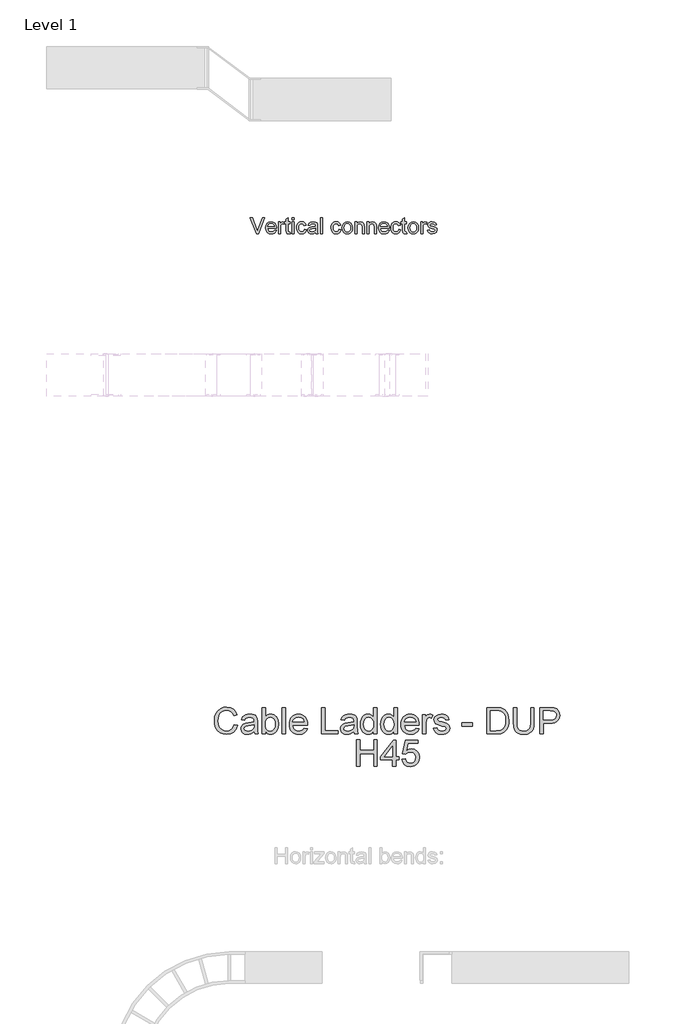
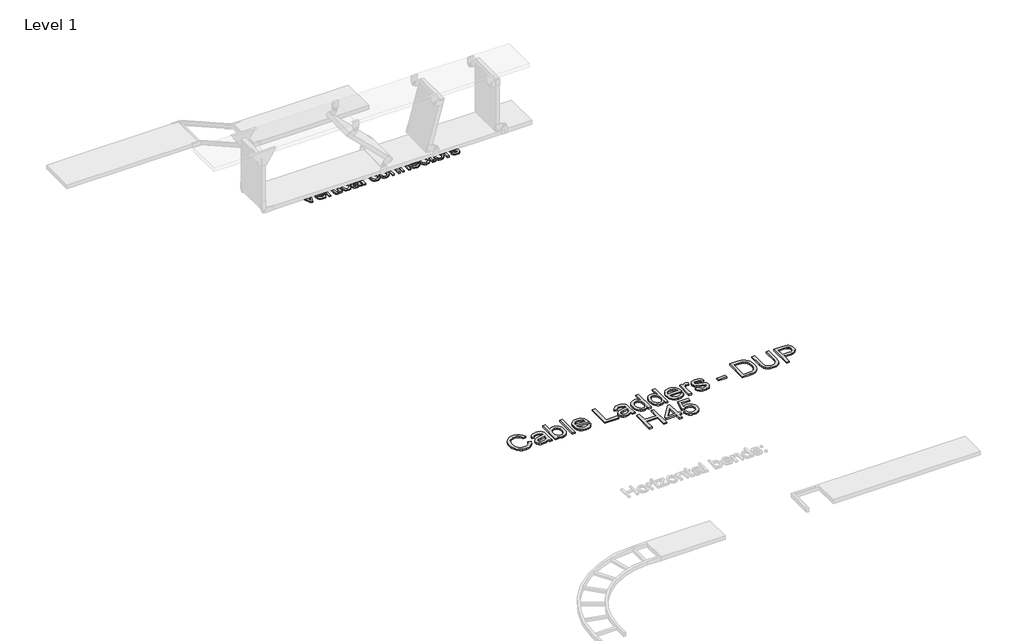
# One storey, part 61 of 106: 2 proxies.
"""IFC4 building model written with IfcOpenShell, lengths in millimetres."""

from ifc_helpers import new_model, si_unit, origin, origin_with_axes, place, context, project, spatial, polyline, outline, extrude, element, save

model = new_model("IFC4")

# Units and contexts
model_context = context("Model", 3, world=origin())
ifc_project = project(units=[si_unit("LENGTHUNIT", "METRE", prefix="MILLI")], contexts=[model_context])

# Site, building, storey
site = spatial("IfcSite", under=ifc_project)
building = spatial("IfcBuilding", under=site)
storey = spatial("IfcBuildingStorey", under=building, Name="Level 1", Elevation=0.0)

# Proxies
placement = place(None, origin())
element("IfcBuildingElementProxy", 1, Name="150mm Arial 2", ObjectType="150mm Arial 2", at=placement, inside=storey, context=model_context, shape_type="SweptSolid", body=[
    extrude(outline(polyline([(42088.5897513, 44647.8476348), (42028.624986, 44798.5321), (42048.7849194, 44798.5321), (42088.920845, 44689.9701232), (42097.0510371, 44665.5059705), (42105.0708646, 44689.9701232), (42145.3171549, 44798.5321), (42165.4770882, 44798.5321), (42108.0507088, 44647.8476348), (42088.5897513, 44647.8476348)])), origin_with_axes(), (0.0, 0.0, 1.0), 15.0),
    extrude(outline(polyline([(42258.1097746, 44680.8098615), (42276.5774508, 44678.4554168), (42269.9233852, 44664.5402803), (42259.3053911, 44654.1384169), (42244.9625918, 44647.6544967), (42227.1341106, 44645.49319), (42205.0335998, 44649.2225937), (42188.0282546, 44660.4108049), (42177.1849327, 44678.3312566), (42173.5704921, 44702.2573819), (42177.2217209, 44726.988249), (42188.1754073, 44745.4835163), (42204.9508263, 44757.0166168), (42226.0672529, 44760.8609837), (42246.5260903, 44757.0258139), (42262.8738465, 44745.5203045), (42273.5930081, 44727.0618254), (42277.166062, 44702.3677465), (42277.0556974, 44697.2909749), (42192.4060503, 44697.2909749), (42195.6664045, 44683.1918975), (42203.2401751, 44672.8268223), (42214.1708688, 44666.4532667), (42227.5019926, 44664.3287482), (42245.9696688, 44668.2650855), (42258.1097746, 44680.8098615)]), holes=[polyline([(42192.4060503, 44716.1265331), (42258.3305038, 44716.1265331), (42255.782921, 44726.0777411), (42250.7889229, 44733.1962577), (42239.8076454, 44739.8181336), (42225.9936765, 44742.0254255), (42213.2971491, 44740.2641905), (42202.7987167, 44734.9804853), (42195.5008576, 44726.7445272), (42192.4060503, 44716.1265331)])]), origin_with_axes(), (0.0, 0.0, 1.0), 15.0),
    extrude(outline(polyline([(42406.6605243, 44663.556196), (42409.0149691, 44647.2958118), (42394.9250886, 44645.49319), (42379.142951, 44648.620187), (42371.2702763, 44656.8239555), (42368.989408, 44678.1978994), (42368.989408, 44739.6709808), (42354.8627394, 44739.6709808), (42354.8627394, 44755.0484482), (42354.8627394, 44758.5065389), (42368.989408, 44758.5065389), (42368.989408, 44785.3987128), (42387.8249661, 44796.4719608), (42387.8249661, 44758.5065389), (42406.6605243, 44758.5065389), (42406.6605243, 44739.6709808), (42387.8249661, 44739.6709808), (42387.8249661, 44678.7497224), (42388.8182475, 44669.0376377), (42392.037215, 44665.597941), (42398.4567558, 44664.3287482), (42406.6605243, 44663.556196)])), origin_with_axes(), (0.0, 0.0, 1.0), 15.0),
    extrude(outline(polyline([(42296.0016201, 44647.8476348), (42296.0016201, 44758.5065389), (42312.4827335, 44758.5065389), (42312.4827335, 44742.1357901), (42324.181381, 44757.2189519), (42335.9536048, 44760.8609837), (42354.8627394, 44755.0484482), (42348.5719572, 44738.1626646), (42335.3282054, 44742.0254255), (42324.6780217, 44738.3098174), (42317.8905988, 44728.0091215), (42314.8371783, 44706.0097782), (42314.8371783, 44647.8476348), (42296.0016201, 44647.8476348)])), origin_with_axes(), (0.0, 0.0, 1.0), 15.0),
    extrude(outline(polyline([(42425.4960824, 44779.6965419), (42425.4960824, 44798.5321), (42444.3316406, 44798.5321), (42444.3316406, 44779.6965419), (42425.4960824, 44779.6965419)])), origin_with_axes(), (0.0, 0.0, 1.0), 15.0),
    extrude(outline(polyline([(42425.4960824, 44647.8476348), (42425.4960824, 44758.5065389), (42444.3316406, 44758.5065389), (42444.3316406, 44647.8476348), (42425.4960824, 44647.8476348)])), origin_with_axes(), (0.0, 0.0, 1.0), 15.0),
    extrude(outline(polyline([(42543.2183209, 44687.8731959), (42562.053879, 44685.5187511), (42556.8023636, 44668.7663247), (42546.933929, 44656.1065856), (42533.3774775, 44648.1465389), (42517.061911, 44645.49319), (42497.0261379, 44649.1950026), (42481.3589634, 44660.3004403), (42471.2468071, 44678.3220596), (42467.8760883, 44702.7724167), (42469.3154266, 44719.5340401), (42473.6334415, 44734.0607803), (42480.8991109, 44745.7916175), (42491.1814127, 44754.1655314), (42503.4824669, 44759.1871206), (42516.8043936, 44760.8609837), (42532.7198885, 44758.5617212), (42545.444007, 44751.6639338), (42554.572079, 44740.5355035), (42559.6994343, 44725.5443122), (42540.8638761, 44723.1898674), (42532.1266787, 44737.2981419), (42516.9515464, 44742.0254255), (42504.7792509, 44739.6985719), (42495.11775, 44732.7180111), (42488.8131723, 44720.7066639), (42486.7116464, 44703.2874515), (42488.7671871, 44685.6337142), (42494.933809, 44673.5809803), (42504.420566, 44666.6418062), (42516.4365116, 44664.3287482), (42526.189983, 44665.772685), (42534.1868179, 44670.1044955), (42540.003952, 44677.4345442), (42543.2183209, 44687.8731959)])), origin_with_axes(), (0.0, 0.0, 1.0), 15.0),
    extrude(outline(polyline([(42649.1683355, 44661.9743034), (42630.9029944, 44649.2087982), (42610.724667, 44645.49319), (42594.9839161, 44647.7280731), (42583.3726407, 44654.4327225), (42576.2127373, 44664.6138567), (42573.8261029, 44677.2781944), (42577.4313464, 44692.1774152), (42586.9043078, 44702.9931459), (42600.0928773, 44709.1735634), (42616.3900497, 44712.0062547), (42649.0579709, 44718.4809779), (42649.1683355, 44722.6748326), (42647.8715515, 44731.0809362), (42643.9811994, 44736.580772), (42635.2807902, 44740.6642622), (42623.1590784, 44742.0254255), (42604.1027911, 44738.4017879), (42595.0161058, 44725.5443122), (42576.1805477, 44727.8987569), (42584.3291339, 44746.2928567), (42600.7366708, 44757.0717991), (42625.5870996, 44760.8609837), (42648.4141774, 44757.5132575), (42661.3084413, 44749.107154), (42667.0841887, 44736.3232546), (42668.0038937, 44719.8421412), (42668.0038937, 44696.4080581), (42668.9603868, 44663.6849547), (42672.7127832, 44647.8476348), (42653.877225, 44647.8476348), (42649.1683355, 44661.9743034)]), holes=[polyline([(42649.1683355, 44699.6454197), (42618.7812827, 44693.8696724), (42602.5760808, 44690.8162518), (42595.236835, 44685.8498449), (42592.661661, 44678.6025696), (42598.2718615, 44668.4122383), (42614.7345808, 44664.3287482), (42633.7908681, 44668.8353026), (42646.0781267, 44679.7430038), (42649.0579709, 44694.3111308), (42649.1683355, 44699.6454197)])]), origin_with_axes(), (0.0, 0.0, 1.0), 15.0),
    extrude(outline(polyline([(42693.9027861, 44647.8476348), (42693.9027861, 44798.5321), (42712.7383443, 44798.5321), (42712.7383443, 44647.8476348), (42693.9027861, 44647.8476348)])), origin_with_axes(), (0.0, 0.0, 1.0), 15.0),
    extrude(outline(polyline([(42870.4861438, 44687.8731959), (42889.321702, 44685.5187511), (42884.0701865, 44668.7663247), (42874.201752, 44656.1065856), (42860.6453004, 44648.1465389), (42844.3297339, 44645.49319), (42824.2939608, 44649.1950026), (42808.6267863, 44660.3004403), (42798.51463, 44678.3220596), (42795.1439112, 44702.7724167), (42796.5832495, 44719.5340401), (42800.9012644, 44734.0607803), (42808.1669338, 44745.7916175), (42818.4492356, 44754.1655314), (42830.7502898, 44759.1871206), (42844.0722165, 44760.8609837), (42859.9877114, 44758.5617212), (42872.7118299, 44751.6639338), (42881.8399019, 44740.5355035), (42886.9672572, 44725.5443122), (42868.131699, 44723.1898674), (42859.3945016, 44737.2981419), (42844.2193693, 44742.0254255), (42832.0470738, 44739.6985719), (42822.3855729, 44732.7180111), (42816.0809952, 44720.7066639), (42813.9794693, 44703.2874515), (42816.03501, 44685.6337142), (42822.2016319, 44673.5809803), (42831.6883889, 44666.6418062), (42843.7043346, 44664.3287482), (42853.457806, 44665.772685), (42861.4546408, 44670.1044955), (42867.2717749, 44677.4345442), (42870.4861438, 44687.8731959)])), origin_with_axes(), (0.0, 0.0, 1.0), 15.0),
    extrude(outline(polyline([(42901.0939258, 44703.1770869), (42905.1682189, 44729.8577286), (42917.3910982, 44748.6105133), (42932.4926541, 44757.7983661), (42950.5740542, 44760.8609837), (42970.361507, 44757.13158), (42986.1666372, 44745.9433688), (42996.5271139, 44728.179267), (42999.9806061, 44704.7221912), (42998.4538958, 44685.693495), (42993.873765, 44671.2081415), (42986.3735708, 44660.3602211), (42976.0866705, 44652.2438246), (42963.8683898, 44647.1808487), (42950.5740542, 44645.49319), (42930.547478, 44649.2087982), (42914.7607419, 44660.3556226), (42904.5106298, 44678.492205), (42901.0939258, 44703.1770869)]), holes=[polyline([(42919.929484, 44703.2138751), (42922.1091848, 44686.1671431), (42928.6482872, 44674.0224387), (42938.4891306, 44666.7521708), (42950.5740542, 44664.3287482), (42962.6037954, 44666.7659664), (42972.4262447, 44674.077621), (42978.9653471, 44686.3832738), (42981.145048, 44703.8024862), (42978.9515516, 44720.3525775), (42972.3710624, 44732.331735), (42962.5348175, 44739.6020029), (42950.5740542, 44742.0254255), (42938.4891306, 44739.6112), (42928.6482872, 44732.3685232), (42922.1091848, 44720.25141), (42919.929484, 44703.2138751)])]), origin_with_axes(), (0.0, 0.0, 1.0), 15.0),
    extrude(outline(polyline([(43021.170609, 44647.8476348), (43021.170609, 44758.5065389), (43040.0061672, 44758.5065389), (43040.0061672, 44743.0554951), (43054.4087473, 44756.4096116), (43074.0720399, 44760.8609837), (43091.8591344, 44757.2741342), (43103.9992402, 44747.8563552), (43109.6462289, 44734.0055981), (43110.6395103, 44715.7954393), (43110.6395103, 44647.8476348), (43091.8039521, 44647.8476348), (43091.8039521, 44713.2570535), (43089.6334483, 44729.9221079), (43081.9631087, 44738.7328817), (43069.0320566, 44742.0254255), (43058.0001953, 44740.1768185), (43048.5962118, 44734.6309974), (43042.1536783, 44723.9164343), (43040.0061672, 44706.5616012), (43040.0061672, 44647.8476348), (43021.170609, 44647.8476348)])), origin_with_axes(), (0.0, 0.0, 1.0), 15.0),
    extrude(outline(polyline([(43136.5384027, 44647.8476348), (43136.5384027, 44758.5065389), (43155.3739609, 44758.5065389), (43155.3739609, 44743.0554951), (43169.776541, 44756.4096116), (43189.4398336, 44760.8609837), (43207.2269281, 44757.2741342), (43219.3670339, 44747.8563552), (43225.0140226, 44734.0055981), (43226.0073039, 44715.7954393), (43226.0073039, 44647.8476348), (43207.1717458, 44647.8476348), (43207.1717458, 44713.2570535), (43205.001242, 44729.9221079), (43197.3309024, 44738.7328817), (43184.3998503, 44742.0254255), (43173.367989, 44740.1768185), (43163.9640055, 44734.6309974), (43157.521472, 44723.9164343), (43155.3739609, 44706.5616012), (43155.3739609, 44647.8476348), (43136.5384027, 44647.8476348)])), origin_with_axes(), (0.0, 0.0, 1.0), 15.0),
    extrude(outline(polyline([(43329.3821446, 44680.8098615), (43347.8498207, 44678.4554168), (43341.1957552, 44664.5402803), (43330.5777611, 44654.1384169), (43316.2349618, 44647.6544967), (43298.4064806, 44645.49319), (43276.3059697, 44649.2225937), (43259.3006245, 44660.4108049), (43248.4573027, 44678.3312566), (43244.8428621, 44702.2573819), (43248.4940909, 44726.988249), (43259.4477773, 44745.4835163), (43276.2231963, 44757.0166168), (43297.3396228, 44760.8609837), (43317.7984603, 44757.0258139), (43334.1462164, 44745.5203045), (43344.8653781, 44727.0618254), (43348.4384319, 44702.3677465), (43348.3280673, 44697.2909749), (43263.6784202, 44697.2909749), (43266.9387744, 44683.1918975), (43274.512545, 44672.8268223), (43285.4432388, 44666.4532667), (43298.7743626, 44664.3287482), (43317.2420387, 44668.2650855), (43329.3821446, 44680.8098615)]), holes=[polyline([(43263.6784202, 44716.1265331), (43329.6028738, 44716.1265331), (43327.055291, 44726.0777411), (43322.0612929, 44733.1962577), (43311.0800153, 44739.8181336), (43297.2660464, 44742.0254255), (43284.569519, 44740.2641905), (43274.0710866, 44734.9804853), (43266.7732275, 44726.7445272), (43263.6784202, 44716.1265331)])]), origin_with_axes(), (0.0, 0.0, 1.0), 15.0),
    extrude(outline(polyline([(43437.9073332, 44687.8731959), (43456.7428913, 44685.5187511), (43451.4913758, 44668.7663247), (43441.6229413, 44656.1065856), (43428.0664898, 44648.1465389), (43411.7509233, 44645.49319), (43391.7151501, 44649.1950026), (43376.0479757, 44660.3004403), (43365.9358193, 44678.3220596), (43362.5651006, 44702.7724167), (43364.0044389, 44719.5340401), (43368.3224538, 44734.0607803), (43375.5881232, 44745.7916175), (43385.8704249, 44754.1655314), (43398.1714792, 44759.1871206), (43411.4934059, 44760.8609837), (43427.4089007, 44758.5617212), (43440.1330192, 44751.6639338), (43449.2610912, 44740.5355035), (43454.3884465, 44725.5443122), (43435.5528884, 44723.1898674), (43426.815691, 44737.2981419), (43411.6405587, 44742.0254255), (43399.4682632, 44739.6985719), (43389.8067623, 44732.7180111), (43383.5021846, 44720.7066639), (43381.4006587, 44703.2874515), (43383.4561994, 44685.6337142), (43389.6228213, 44673.5809803), (43399.1095782, 44666.6418062), (43411.1255239, 44664.3287482), (43420.8789953, 44665.772685), (43428.8758302, 44670.1044955), (43434.6929642, 44677.4345442), (43437.9073332, 44687.8731959)])), origin_with_axes(), (0.0, 0.0, 1.0), 15.0),
    extrude(outline(polyline([(43513.2495658, 44663.556196), (43515.6040105, 44647.2958118), (43501.5141301, 44645.49319), (43485.7319925, 44648.620187), (43477.8593178, 44656.8239555), (43475.5784495, 44678.1978994), (43475.5784495, 44739.6709808), (43461.4517809, 44739.6709808), (43461.4517809, 44758.5065389), (43475.5784495, 44758.5065389), (43475.5784495, 44785.3987128), (43494.4140076, 44796.4719608), (43494.4140076, 44758.5065389), (43513.2495658, 44758.5065389), (43513.2495658, 44739.6709808), (43494.4140076, 44739.6709808), (43494.4140076, 44678.7497224), (43495.407289, 44669.0376377), (43498.6262565, 44665.597941), (43505.0457973, 44664.3287482), (43513.2495658, 44663.556196)])), origin_with_axes(), (0.0, 0.0, 1.0), 15.0),
    extrude(outline(polyline([(43527.3762344, 44703.1770869), (43531.4505275, 44729.8577286), (43543.6734068, 44748.6105133), (43558.7749627, 44757.7983661), (43576.8563627, 44760.8609837), (43596.6438156, 44757.13158), (43612.4489458, 44745.9433688), (43622.8094225, 44728.179267), (43626.2629147, 44704.7221912), (43624.7362044, 44685.693495), (43620.1560736, 44671.2081415), (43612.6558794, 44660.3602211), (43602.3689791, 44652.2438246), (43590.1506983, 44647.1808487), (43576.8563627, 44645.49319), (43556.8297866, 44649.2087982), (43541.0430505, 44660.3556226), (43530.7929384, 44678.492205), (43527.3762344, 44703.1770869)]), holes=[polyline([(43546.2117925, 44703.2138751), (43548.3914934, 44686.1671431), (43554.9305958, 44674.0224387), (43564.7714392, 44666.7521708), (43576.8563627, 44664.3287482), (43588.886104, 44666.7659664), (43598.7085533, 44674.077621), (43605.2476557, 44686.3832738), (43607.4273565, 44703.8024862), (43605.2338601, 44720.3525775), (43598.653371, 44732.331735), (43588.8171261, 44739.6020029), (43576.8563627, 44742.0254255), (43564.7714392, 44739.6112), (43554.9305958, 44732.3685232), (43548.3914934, 44720.25141), (43546.2117925, 44703.2138751)])]), origin_with_axes(), (0.0, 0.0, 1.0), 15.0),
    extrude(outline(polyline([(43647.4529176, 44647.8476348), (43647.4529176, 44758.5065389), (43663.934031, 44758.5065389), (43663.934031, 44742.1357901), (43675.6326784, 44757.2189519), (43687.4049023, 44760.8609837), (43706.3140368, 44755.0484482), (43700.0232547, 44738.1626646), (43686.7795029, 44742.0254255), (43676.1293191, 44738.3098174), (43669.3418963, 44728.0091215), (43666.2884758, 44706.0097782), (43666.2884758, 44647.8476348), (43647.4529176, 44647.8476348)])), origin_with_axes(), (0.0, 0.0, 1.0), 15.0),
    extrude(outline(polyline([(43711.0229264, 44680.8098615), (43729.8584845, 44683.1643063), (43732.8291316, 44675.1076906), (43738.5772878, 44669.1847905), (43758.5532802, 44664.3287482), (43777.7567203, 44668.7801203), (43784.0107142, 44679.227969), (43782.4380187, 44684.028829), (43777.7199321, 44687.6892549), (43758.332551, 44693.060332), (43729.9688491, 44702.275776), (43717.58962, 44713.0363243), (43713.3773712, 44728.2298507), (43716.7618855, 44742.2645488), (43725.9957236, 44752.988309), (43737.9702825, 44758.5617212), (43754.1754844, 44760.8609837), (43777.0945327, 44757.1637696), (43791.6626597, 44747.1573794), (43798.1373828, 44730.2532017), (43779.3018247, 44727.8987569), (43772.2200963, 44738.2914233), (43755.6470124, 44742.0254255), (43737.6207946, 44738.4569702), (43732.2129293, 44730.1428371), (43734.4570095, 44724.6613954), (43741.4835556, 44720.5043288), (43757.7071516, 44716.4944151), (43785.3534835, 44707.628459), (43798.1925651, 44697.5852805), (43802.8462724, 44681.2145317), (43797.3832248, 44663.188314), (43781.6194813, 44650.1101091), (43758.2957628, 44645.49319), (43739.3038548, 44647.7188761), (43725.4439006, 44654.3959343), (43716.1916684, 44665.4507882), (43711.0229264, 44680.8098615)])), origin_with_axes(), (0.0, 0.0, 1.0), 15.0),
])
element("IfcBuildingElementProxy", 2, Name="250mm Arial 3", ObjectType="250mm Arial 3", at=placement, inside=storey, context=model_context, shape_type="SweptSolid", body=[
    extrude(outline(polyline([(41877.4786825, 39992.4106539), (41908.8712794, 39984.31725), (41894.3859258, 39947.7359841), (41871.6538842, 39921.01089), (41841.7941289, 39904.6631338), (41805.9256344, 39899.2138818), (41769.5129811, 39903.3372258), (41740.5959234, 39915.7072579), (41718.4310332, 39935.8947824), (41702.2748823, 39963.4706036), (41692.4110463, 39995.8902044), (41689.1231009, 40030.6090677), (41692.8402419, 40067.2286547), (41703.9916649, 40098.8511778), (41721.9948901, 40124.472626), (41746.2674375, 40143.0889877), (41775.0542037, 40154.4243517), (41806.6000847, 40158.2028064), (41841.0200439, 40153.3130415), (41869.4772491, 40138.643747), (41891.0826521, 40115.0992993), (41904.9472048, 40083.584075), (41873.5546079, 40076.1038078), (41862.6714322, 40098.9967978), (41847.8028682, 40114.7007605), (41828.764975, 40123.7828472), (41805.3738114, 40126.8102095), (41778.4111269, 40123.4532863), (41756.2615651, 40113.3825166), (41739.4539564, 40097.6555613), (41728.5171313, 40077.3300811), (41722.5160562, 40054.3527848), (41720.5156979, 40030.6703814), (41722.8839382, 40001.6690174), (41729.9886592, 39976.5917281), (41742.0981083, 39956.3965394), (41759.4805325, 39942.0414774), (41780.3195147, 39933.4652284), (41802.7986375, 39930.6064787), (41829.0025654, 39934.4998965), (41850.8378947, 39946.1801498), (41867.3236066, 39965.5246114), (41877.4786825, 39992.4106539)])), origin_with_axes(), (0.0, 0.0, 1.0), 15.0),
    extrude(outline(polyline([(42065.834264, 39926.6824041), (42050.8354085, 39913.8218627), (42035.3920289, 39905.406562), (42019.1515717, 39900.7620518), (42001.7614832, 39899.2138818), (41975.5268984, 39902.938687), (41956.1747726, 39914.1131026), (41944.2416004, 39931.0816596), (41940.2638763, 39952.1888891), (41941.7660611, 39965.2027147), (41946.2726156, 39977.0209238), (41962.0608845, 39995.0471415), (41984.0418337, 40005.3478374), (42011.2037877, 40010.0689897), (42065.650323, 40020.8601949), (42065.834264, 40027.8499528), (42063.6729573, 40041.8601254), (42057.1890371, 40051.0265185), (42042.6883551, 40057.8323354), (42022.4855022, 40060.100941), (42003.7848342, 40058.591092), (41990.7250233, 40054.0615449), (41981.8192134, 40045.6845653), (41975.5805479, 40032.6324187), (41944.1879509, 40036.5564933), (41949.637203, 40053.7243198), (41957.7689279, 40067.2133262), (41969.3418824, 40077.5293505), (41985.1148229, 40085.1782303), (42004.405635, 40089.914711), (42026.5322042, 40091.4935379), (42047.7543968, 40090.098652), (42064.5773339, 40085.9139943), (42077.2615985, 40079.6216794), (42086.0677737, 40071.9038217), (42095.6940193, 40050.5973228), (42097.2268609, 40023.1288005), (42097.2268609, 39984.0719953), (42098.8210162, 39929.5334895), (42105.0750102, 39903.1379564), (42073.6824132, 39903.1379564), (42065.834264, 39926.6824041)]), holes=[polyline([(42065.834264, 39989.4675979), (42015.189176, 39979.8413524), (41988.1805062, 39974.7523181), (41975.9484299, 39966.4749732), (41971.6564732, 39954.3961811), (41973.9940568, 39945.0611754), (41981.0068073, 39937.4122956), (41992.5414407, 39932.3079329), (42008.4446728, 39930.6064787), (42025.3059309, 39932.4842097), (42040.2051517, 39938.1174028), (42052.2839439, 39946.4177403), (42060.6839161, 39956.2969047), (42064.4087213, 39966.4749732), (42065.650323, 39980.5771164), (42065.834264, 39989.4675979)])]), origin_with_axes(), (0.0, 0.0, 1.0), 15.0),
    extrude(outline(polyline([(42171.7842786, 39903.1379564), (42140.3916817, 39903.1379564), (42140.3916817, 40154.2787318), (42171.7842786, 40154.2787318), (42171.7842786, 40061.1432733), (42182.1079671, 40074.4215141), (42193.7652278, 40083.9059718), (42206.7560608, 40089.5966464), (42221.080466, 40091.4935379), (42237.2519453, 40089.7844195), (42252.5343766, 40084.6570642), (42266.0540399, 40076.4333687), (42276.9372156, 40065.4352299), (42291.9284069, 40035.5448178), (42297.3546663, 39998.1128248), (42291.7368017, 39956.2049342), (42284.7144709, 39939.2746982), (42274.8832078, 39925.0269351), (42263.0822431, 39913.7337243), (42250.1508078, 39905.6671451), (42236.0889017, 39900.8271976), (42220.896525, 39899.2138818), (42206.100771, 39901.2947143), (42192.9834786, 39907.5372119), (42181.5446478, 39917.9413746), (42171.7842786, 39932.5072023), (42171.7842786, 39903.1379564)]), holes=[polyline([(42171.7842786, 39996.6412968), (42173.9302569, 39970.4603615), (42180.3681918, 39952.7407121), (42196.8155827, 39936.140037), (42218.1987237, 39930.6064787), (42236.3169119, 39934.6838375), (42251.7986126, 39946.9159138), (42262.4212052, 39967.2260656), (42265.9620694, 39995.5376509), (42262.5668251, 40024.2631033), (42252.3810924, 40044.3433289), (42237.3822369, 40056.161538), (42219.5476243, 40060.100941), (42201.4294361, 40056.0235822), (42185.9477354, 40043.7915059), (42175.3251428, 40023.8492361), (42171.7842786, 39996.6412968)])]), origin_with_axes(), (0.0, 0.0, 1.0), 15.0),
    extrude(outline(polyline([(42332.6713378, 39903.1379564), (42332.6713378, 40154.2787318), (42364.0639348, 40154.2787318), (42364.0639348, 39903.1379564), (42332.6713378, 39903.1379564)])), origin_with_axes(), (0.0, 0.0, 1.0), 15.0),
    extrude(outline(polyline([(42540.2794105, 39958.075001), (42571.0588707, 39954.1509264), (42559.9687614, 39930.9590323), (42542.2721046, 39913.6225933), (42518.3674391, 39902.8160597), (42488.6533038, 39899.2138818), (42469.1747186, 39900.7678), (42451.819119, 39905.4295547), (42436.5865052, 39913.1991458), (42423.476877, 39924.0765733), (42412.9347586, 39937.759101), (42405.404674, 39953.9439928), (42400.8866232, 39972.6312485), (42399.3806063, 39993.8208682), (42400.9019516, 40015.7290074), (42405.4659876, 40035.0389801), (42413.0727143, 40051.7507861), (42423.7221317, 40065.8644256), (42436.7972709, 40077.0771622), (42451.6811633, 40085.0862598), (42468.3738088, 40089.8917184), (42486.8752075, 40091.4935379), (42504.780714, 40089.8955505), (42520.9732699, 40085.1015883), (42535.4528753, 40077.1116512), (42548.2195302, 40065.9257393), (42558.6409373, 40051.8427566), (42566.0847996, 40035.1616074), (42570.5511169, 40015.8822916), (42572.0398894, 39994.0048092), (42571.8559484, 39985.5435233), (42430.7732032, 39985.5435233), (42436.2071269, 39962.0450609), (42448.8300778, 39944.7699355), (42467.0479008, 39934.1473429), (42489.2664405, 39930.6064787), (42505.9744144, 39932.2466193), (42520.0459007, 39937.1670409), (42531.4808994, 39945.6743121), (42540.2794105, 39958.075001)]), holes=[polyline([(42430.7732032, 40016.9361202), (42540.6472925, 40016.9361202), (42536.4013211, 40033.5214669), (42528.077991, 40045.3856612), (42509.7758617, 40056.4221211), (42486.7525802, 40060.100941), (42465.5917012, 40057.1655493), (42448.0943138, 40048.359374), (42435.9312154, 40034.632777), (42430.7732032, 40016.9361202)])]), origin_with_axes(), (0.0, 0.0, 1.0), 15.0),
    extrude(outline(polyline([(42705.4584263, 39903.1379564), (42705.4584263, 40154.2787318), (42736.8510232, 40154.2787318), (42736.8510232, 39934.5305533), (42862.4214109, 39934.5305533), (42862.4214109, 39903.1379564), (42705.4584263, 39903.1379564)])), origin_with_axes(), (0.0, 0.0, 1.0), 15.0),
    extrude(outline(polyline([(43011.5362463, 39926.6824041), (42996.5373908, 39913.8218627), (42981.0940112, 39905.406562), (42964.8535539, 39900.7620518), (42947.4634655, 39899.2138818), (42921.2288807, 39902.938687), (42901.8767549, 39914.1131026), (42889.9435827, 39931.0816596), (42885.9658586, 39952.1888891), (42887.4680434, 39965.2027147), (42891.9745978, 39977.0209238), (42907.7628668, 39995.0471415), (42929.743816, 40005.3478374), (42956.90577, 40010.0689897), (43011.3523053, 40020.8601949), (43011.5362463, 40027.8499528), (43009.3749396, 40041.8601254), (43002.8910194, 40051.0265185), (42988.3903374, 40057.8323354), (42968.1874845, 40060.100941), (42949.4868164, 40058.591092), (42936.4270056, 40054.0615449), (42927.5211956, 40045.6845653), (42921.2825301, 40032.6324187), (42889.8899332, 40036.5564933), (42895.3391853, 40053.7243198), (42903.4709102, 40067.2133262), (42915.0438646, 40077.5293505), (42930.8168052, 40085.1782303), (42950.1076173, 40089.914711), (42972.2341865, 40091.4935379), (42993.4563791, 40090.098652), (43010.2793161, 40085.9139943), (43022.9635808, 40079.6216794), (43031.769756, 40071.9038217), (43041.3960016, 40050.5973228), (43042.9288432, 40023.1288005), (43042.9288432, 39984.0719953), (43044.5229985, 39929.5334895), (43050.7769924, 39903.1379564), (43019.3843955, 39903.1379564), (43011.5362463, 39926.6824041)]), holes=[polyline([(43011.5362463, 39989.4675979), (42960.8911583, 39979.8413524), (42933.8824885, 39974.7523181), (42921.6504121, 39966.4749732), (42917.3584555, 39954.3961811), (42919.696039, 39945.0611754), (42926.7087896, 39937.4122956), (42938.2434229, 39932.3079329), (42954.146655, 39930.6064787), (42971.0079131, 39932.4842097), (42985.9071339, 39938.1174028), (42997.9859261, 39946.4177403), (43006.3858983, 39956.2969047), (43010.1107035, 39966.4749732), (43011.3523053, 39980.5771164), (43011.5362463, 39989.4675979)])]), origin_with_axes(), (0.0, 0.0, 1.0), 15.0),
    extrude(outline(polyline([(43199.8918278, 39903.1379564), (43199.8918278, 39932.752457), (43190.4993406, 39918.0793303), (43179.1218235, 39907.5985256), (43165.7592764, 39901.3100427), (43150.4116995, 39899.2138818), (43130.1168761, 39902.2489082), (43111.5388353, 39911.3539876), (43095.81188, 39925.8929906), (43084.070313, 39945.229788), (43076.7586583, 39968.5826305), (43074.3214401, 39995.1697689), (43076.5670531, 40021.4273463), (43083.3038922, 40045.1404065), (43094.524293, 40064.960049), (43110.2205915, 40079.5373731), (43129.2048353, 40088.5044967), (43150.2890721, 40091.4935379), (43165.6481454, 40089.3552238), (43179.2291224, 40082.9402815), (43190.7407632, 40073.1071024), (43199.8918278, 40060.7140777), (43199.8918278, 40154.2787318), (43231.2844247, 40154.2787318), (43231.2844247, 39903.1379564), (43199.8918278, 39903.1379564)]), holes=[polyline([(43105.714037, 39995.2923962), (43109.2549012, 39966.8965047), (43119.8774939, 39946.701316), (43135.3132092, 39934.630188), (43153.2934418, 39930.6064787), (43171.2660101, 39934.446247), (43186.3108508, 39945.965552), (43196.4965836, 39965.3789915), (43199.8918278, 39992.9011632), (43196.4352699, 40022.9908447), (43186.0655962, 40043.8528196), (43170.637545, 40056.0389106), (43152.0058548, 40060.100941), (43133.8416813, 40056.199859), (43118.9577889, 40044.496613), (43109.024975, 40024.3933948), (43105.714037, 39995.2923962)])]), origin_with_axes(), (0.0, 0.0, 1.0), 15.0),
    extrude(outline(polyline([(43392.171484, 39903.1379564), (43392.171484, 39932.752457), (43382.7789968, 39918.0793303), (43371.4014796, 39907.5985256), (43358.0389326, 39901.3100427), (43342.6913556, 39899.2138818), (43322.3965322, 39902.2489082), (43303.8184914, 39911.3539876), (43288.0915362, 39925.8929906), (43276.3499691, 39945.229788), (43269.0383145, 39968.5826305), (43266.6010963, 39995.1697689), (43268.8467093, 40021.4273463), (43275.5835483, 40045.1404065), (43286.8039492, 40064.960049), (43302.5002476, 40079.5373731), (43321.4844914, 40088.5044967), (43342.5687283, 40091.4935379), (43357.9278016, 40089.3552238), (43371.5087786, 40082.9402815), (43383.0204193, 40073.1071024), (43392.171484, 40060.7140777), (43392.171484, 40154.2787318), (43423.5640809, 40154.2787318), (43423.5640809, 39903.1379564), (43392.171484, 39903.1379564)]), holes=[polyline([(43297.9936932, 39995.2923962), (43301.5345574, 39966.8965047), (43312.15715, 39946.701316), (43327.5928654, 39934.630188), (43345.5730979, 39930.6064787), (43363.5456662, 39934.446247), (43378.590507, 39945.965552), (43388.7762397, 39965.3789915), (43392.171484, 39992.9011632), (43388.714926, 40022.9908447), (43378.3452523, 40043.8528196), (43362.9172011, 40056.0389106), (43344.2855109, 40060.100941), (43326.1213374, 40056.199859), (43311.237445, 40044.496613), (43301.3046311, 40024.3933948), (43297.9936932, 39995.2923962)])]), origin_with_axes(), (0.0, 0.0, 1.0), 15.0),
    extrude(outline(polyline([(43599.7795566, 39958.075001), (43630.5590168, 39954.1509264), (43619.4689075, 39930.9590323), (43601.7722507, 39913.6225933), (43577.8675852, 39902.8160597), (43548.1534499, 39899.2138818), (43528.6748647, 39900.7678), (43511.3192651, 39905.4295547), (43496.0866513, 39913.1991458), (43482.9770231, 39924.0765733), (43472.4349047, 39937.759101), (43464.9048201, 39953.9439928), (43460.3867693, 39972.6312485), (43458.8807524, 39993.8208682), (43460.4020977, 40015.7290074), (43464.9661338, 40035.0389801), (43472.5728604, 40051.7507861), (43483.2222778, 40065.8644256), (43496.297417, 40077.0771622), (43511.1813094, 40085.0862598), (43527.8739549, 40089.8917184), (43546.3753536, 40091.4935379), (43564.2808601, 40089.8955505), (43580.473416, 40085.1015883), (43594.9530214, 40077.1116512), (43607.7196763, 40065.9257393), (43618.1410834, 40051.8427566), (43625.5849457, 40035.1616074), (43630.051263, 40015.8822916), (43631.5400355, 39994.0048092), (43631.3560945, 39985.5435233), (43490.2733493, 39985.5435233), (43495.707273, 39962.0450609), (43508.3302239, 39944.7699355), (43526.5480469, 39934.1473429), (43548.7665866, 39930.6064787), (43565.4745605, 39932.2466193), (43579.5460468, 39937.1670409), (43590.9810455, 39945.6743121), (43599.7795566, 39958.075001)]), holes=[polyline([(43490.2733493, 40016.9361202), (43600.1474386, 40016.9361202), (43595.9014672, 40033.5214669), (43587.5781371, 40045.3856612), (43569.2760078, 40056.4221211), (43546.2527263, 40060.100941), (43525.0918473, 40057.1655493), (43507.5944599, 40048.359374), (43495.4313615, 40034.632777), (43490.2733493, 40016.9361202)])]), origin_with_axes(), (0.0, 0.0, 1.0), 15.0),
    extrude(outline(polyline([(43662.9326324, 39903.1379564), (43662.9326324, 40087.5694633), (43690.4011547, 40087.5694633), (43690.4011547, 40060.284882), (43700.5485664, 40076.1038078), (43709.8989005, 40085.423485), (43729.5192735, 40091.4935379), (43745.1542583, 40089.0716481), (43761.0344978, 40081.8059787), (43750.5498609, 40053.6630061), (43728.4769412, 40060.100941), (43719.1036145, 40058.5527709), (43710.7266349, 40053.9082608), (43699.4142636, 40036.7404343), (43694.3252293, 40000.0748621), (43694.3252293, 39903.1379564), (43662.9326324, 39903.1379564)])), origin_with_axes(), (0.0, 0.0, 1.0), 15.0),
    extrude(outline(polyline([(43768.882647, 39958.075001), (43800.2752439, 39961.9990756), (43805.2263225, 39948.5713828), (43814.8065827, 39938.6998826), (43829.0773385, 39932.6298297), (43848.0999033, 39930.6064787), (43866.8925419, 39932.4612171), (43880.1056369, 39938.0254323), (43887.9231293, 39946.0881793), (43890.5289601, 39955.4385134), (43887.9078009, 39963.4399468), (43880.0443232, 39969.5406565), (43847.7320213, 39978.4924517), (43800.4591849, 39993.851525), (43788.4953559, 40001.5693827), (43779.8271364, 40011.7857723), (43774.5618253, 40023.8492361), (43772.8067216, 40037.1083163), (43778.4475789, 40060.4994798), (43793.837309, 40078.3724134), (43813.7949073, 40087.6614338), (43840.8035771, 40091.4935379), (43861.2363562, 40089.9530321), (43879.0019909, 40085.3315145), (43893.2880751, 40078.0811735), (43903.2822026, 40068.6541974), (43909.9040785, 40056.3531432), (43914.0734078, 40040.4805679), (43882.6808109, 40036.5564933), (43878.7184152, 40046.4356577), (43870.8779302, 40053.8776039), (43859.0827137, 40058.5451067), (43843.2561237, 40060.100941), (43825.2299059, 40058.6140846), (43813.2124274, 40054.1535154), (43806.4525958, 40047.7155805), (43804.1993186, 40040.2966269), (43807.9394522, 40031.1608907), (43819.6503624, 40024.2324465), (43846.689689, 40017.5492569), (43892.7669089, 40002.7726634), (43904.9376716, 39995.7062634), (43914.1653783, 39986.0340326), (43919.9825123, 39973.7253142), (43921.921557, 39958.7494513), (43919.6452872, 39943.2677507), (43912.8164776, 39928.7057551), (43901.6957115, 39916.2054314), (43886.5435718, 39906.9087468), (43868.2414425, 39901.137598), (43847.6707076, 39899.2138818), (43816.0175276, 39902.9233586), (43792.917604, 39914.0517889), (43777.4972171, 39932.4765455), (43768.882647, 39958.075001)])), origin_with_axes(), (0.0, 0.0, 1.0), 15.0),
    extrude(outline(polyline([(44039.6437955, 39977.6953741), (44039.6437955, 40009.087971), (44137.7456608, 40009.087971), (44137.7456608, 39977.6953741), (44039.6437955, 39977.6953741)])), origin_with_axes(), (0.0, 0.0, 1.0), 15.0),
    extrude(outline(polyline([(44275.0882724, 39903.1379564), (44275.0882724, 40154.2787318), (44361.7244822, 40154.2787318), (44406.544772, 40150.6612255), (44426.5636839, 40143.686796), (44443.4555988, 40132.6963214), (44460.8226947, 40113.5664576), (44473.1927268, 40089.7767553), (44480.5963519, 40061.7870668), (44483.064227, 40030.0572447), (44481.3934296, 40003.1022244), (44476.3810374, 39979.3814999), (44468.747486, 39959.1863112), (44459.213211, 39942.8078982), (44436.2818999, 39920.0298713), (44406.2688605, 39907.429913), (44365.8938115, 39903.1379564), (44275.0882724, 39903.1379564)]), holes=[polyline([(44306.4808693, 39934.5305533), (44362.0310506, 39934.5305533), (44402.4367564, 39939.0677646), (44425.7359494, 39951.8823208), (44436.6421177, 39965.470962), (44444.8351563, 39983.0603198), (44449.9625116, 40004.7270365), (44451.6716301, 40030.5477541), (44448.3223711, 40064.7607796), (44438.2745941, 40090.0220099), (44423.4290227, 40107.3737774), (44405.6863807, 40117.8584142), (44387.6295061, 40121.6292047), (44361.1726593, 40122.8861348), (44306.4808693, 40122.8861348), (44306.4808693, 39934.5305533)])]), origin_with_axes(), (0.0, 0.0, 1.0), 15.0),
    extrude(outline(polyline([(44691.0401816, 40154.2787318), (44722.4327785, 40154.2787318), (44722.4327785, 40009.3945393), (44720.3021286, 39975.4650895), (44713.910179, 39949.3378036), (44701.9693425, 39929.180936), (44683.1920324, 39913.1627408), (44657.5322632, 39902.7010965), (44624.9440498, 39899.2138818), (44593.0686078, 39902.2489082), (44567.5851154, 39911.3539876), (44548.4859085, 39926.2148874), (44535.7633228, 39946.517375), (44528.6126165, 39973.7483068), (44526.2290478, 40009.3945393), (44526.2290478, 40154.2787318), (44557.6216447, 40154.2787318), (44557.6216447, 40010.4981853), (44559.1698147, 39982.2862348), (44563.8143249, 39962.6428691), (44572.2296256, 39949.0388995), (44585.090167, 39938.9451373), (44601.8594546, 39932.6911433), (44622.0009938, 39930.6064787), (44653.9300853, 39934.7298227), (44675.1599421, 39947.0998548), (44682.1075469, 39957.2472665), (44687.0701217, 39971.1961255), (44691.0401816, 40010.4981853), (44691.0401816, 40154.2787318)])), origin_with_axes(), (0.0, 0.0, 1.0), 15.0),
    extrude(outline(polyline([(44777.3698231, 39903.1379564), (44777.3698231, 40154.2787318), (44870.4439679, 40154.2787318), (44907.9679314, 40151.8874988), (44924.698898, 40147.4192654), (44938.4714802, 40140.1459318), (44949.5615895, 40129.737937), (44958.2451374, 40115.8657201), (44963.8553378, 40099.5026355), (44965.7254047, 40081.6220377), (44960.6746914, 40052.0228655), (44945.5225518, 40027.3594434), (44933.3881941, 40017.6488916), (44917.1879739, 40010.7127832), (44896.9218913, 40006.5511181), (44872.5899462, 40005.1638964), (44808.76242, 40005.1638964), (44808.76242, 39903.1379564), (44777.3698231, 39903.1379564)]), holes=[polyline([(44808.76242, 40036.5564933), (44874.4293562, 40036.5564933), (44902.2657605, 40039.4382356), (44920.6598602, 40048.0834625), (44930.9145709, 40061.9556794), (44934.3328077, 40080.5183917), (44932.317121, 40094.6205349), (44926.2700607, 40106.5153861), (44916.9427193, 40115.4671813), (44905.0861891, 40120.7401565), (44873.6935922, 40122.8861348), (44808.76242, 40122.8861348), (44808.76242, 40036.5564933)])]), origin_with_axes(), (0.0, 0.0, 1.0), 15.0),
    extrude(outline(polyline([(43037.0427313, 39598.2009118), (43037.0427313, 39849.3416872), (43068.4353282, 39849.3416872), (43068.4353282, 39747.3157472), (43201.8538651, 39747.3157472), (43201.8538651, 39849.3416872), (43233.246462, 39849.3416872), (43233.246462, 39598.2009118), (43201.8538651, 39598.2009118), (43201.8538651, 39715.9231502), (43068.4353282, 39715.9231502), (43068.4353282, 39598.2009118), (43037.0427313, 39598.2009118)])), origin_with_axes(), (0.0, 0.0, 1.0), 15.0),
    extrude(outline(polyline([(43378.4372228, 39598.2009118), (43378.4372228, 39657.062031), (43264.639059, 39657.062031), (43264.639059, 39688.4546279), (43386.285372, 39845.4176125), (43409.8298197, 39845.4176125), (43409.8298197, 39688.4546279), (43441.2224166, 39688.4546279), (43441.2224166, 39657.062031), (43409.8298197, 39657.062031), (43409.8298197, 39598.2009118), (43378.4372228, 39598.2009118)]), holes=[polyline([(43378.4372228, 39688.4546279), (43378.4372228, 39785.4528473), (43303.2666685, 39688.4546279), (43378.4372228, 39688.4546279)])]), origin_with_axes(), (0.0, 0.0, 1.0), 15.0),
    extrude(outline(polyline([(43468.690939, 39664.9101802), (43500.0835359, 39668.8342549), (43505.8470205, 39649.9879668), (43515.9024617, 39636.4912961), (43530.2038742, 39628.3748996), (43548.7052729, 39625.6694341), (43571.2073883, 39629.4325603), (43588.0686464, 39640.7219391), (43598.5992685, 39658.2346549), (43602.1094759, 39680.6677924), (43598.8215305, 39701.7903503), (43588.9576945, 39717.9465012), (43572.4413258, 39728.2012118), (43549.1957822, 39731.6194487), (43533.9670005, 39730.2552196), (43521.6352894, 39726.1625324), (43504.0076105, 39711.9990756), (43472.6150136, 39715.9231502), (43500.0835359, 39845.4176125), (43621.7298489, 39845.4176125), (43621.7298489, 39814.0250156), (43525.4673935, 39814.0250156), (43512.0397007, 39744.8632005), (43534.465174, 39758.4748343), (43557.9636364, 39763.0120456), (43587.2945614, 39757.3865168), (43611.6437509, 39740.5099303), (43628.0374923, 39714.7888474), (43633.5020728, 39682.6298297), (43628.5816511, 39651.2372328), (43613.820386, 39624.3818471), (43600.7759036, 39611.2109053), (43585.5547861, 39601.8030897), (43568.1570334, 39596.1584003), (43548.5826456, 39594.2768372), (43517.7495359, 39599.1129526), (43493.1857485, 39613.6212987), (43476.347483, 39636.1157499), (43468.690939, 39664.9101802)])), origin_with_axes(), (0.0, 0.0, 1.0), 15.0),
])

save(model, "model.ifc")
